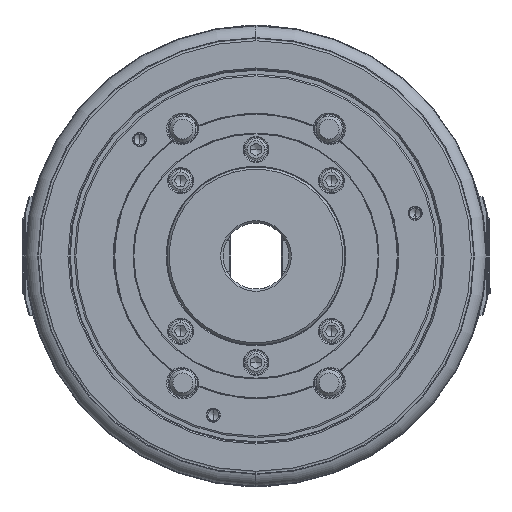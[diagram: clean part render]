
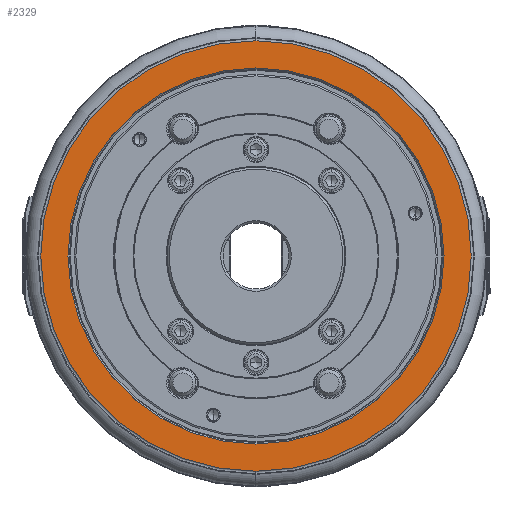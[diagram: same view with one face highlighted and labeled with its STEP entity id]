
A CAD part, left-side view. The second image highlights one B-rep face of the part: STEP entity #2329.
In plain terms, the highlighted planar face has unit normal (-1, 0, 0) as drawn and (0, 0, -1) by its records, which use the part's own axes.
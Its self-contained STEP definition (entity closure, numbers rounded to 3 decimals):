
#2329 = ADVANCED_FACE ( 'NONE', ( #47455, #21137 ), #40255, .T. ) ;
#2384 = AXIS2_PLACEMENT_3D ( 'NONE', #39845, #41071, #53424 ) ;
#2480 = CARTESIAN_POINT ( 'NONE',  ( 98., 0., -91. ) ) ;
#2886 = CARTESIAN_POINT ( 'NONE',  ( 0., 0., -91. ) ) ;
#5291 = CIRCLE ( 'NONE', #45987, 98. ) ;
#5657 = AXIS2_PLACEMENT_3D ( 'NONE', #72125, #40269, #13939 ) ;
#6041 = VERTEX_POINT ( 'NONE', #21465 ) ;
#6609 = DIRECTION ( 'NONE',  ( 1., 0., 0. ) ) ;
#8342 = CIRCLE ( 'NONE', #5657, 85.6 ) ;
#8373 = ORIENTED_EDGE ( 'NONE', *, *, #53928, .F. ) ;
#13337 = VERTEX_POINT ( 'NONE', #17005 ) ;
#13939 = DIRECTION ( 'NONE',  ( 1., 0., 0. ) ) ;
#15424 = EDGE_LOOP ( 'NONE', ( #65281, #8373 ) ) ;
#17005 = CARTESIAN_POINT ( 'NONE',  ( -85.6, 0., -91. ) ) ;
#21137 = FACE_BOUND ( 'NONE', #68425, .T. ) ;
#21465 = CARTESIAN_POINT ( 'NONE',  ( 85.6, 0., -91. ) ) ;
#22280 = AXIS2_PLACEMENT_3D ( 'NONE', #26996, #65641, #6609 ) ;
#26996 = CARTESIAN_POINT ( 'NONE',  ( 0., 0., -91. ) ) ;
#36156 = DIRECTION ( 'NONE',  ( 1., 0., 0. ) ) ;
#36989 = DIRECTION ( 'NONE',  ( 0., 0., 1. ) ) ;
#39845 = CARTESIAN_POINT ( 'NONE',  ( 85.6, 0., -91. ) ) ;
#40255 = PLANE ( 'NONE',  #2384 ) ;
#40269 = DIRECTION ( 'NONE',  ( 0., 0., 1. ) ) ;
#41071 = DIRECTION ( 'NONE',  ( 0., 0., -1. ) ) ;
#45987 = AXIS2_PLACEMENT_3D ( 'NONE', #2886, #54305, #60667 ) ;
#47455 = FACE_OUTER_BOUND ( 'NONE', #15424, .T. ) ;
#48052 = CIRCLE ( 'NONE', #22280, 98. ) ;
#48939 = EDGE_CURVE ( 'NONE', #6041, #13337, #8342, .T. ) ;
#51245 = VERTEX_POINT ( 'NONE', #2480 ) ;
#53264 = CARTESIAN_POINT ( 'NONE',  ( -98., 0., -91. ) ) ;
#53285 = EDGE_CURVE ( 'NONE', #13337, #6041, #73753, .T. ) ;
#53390 = AXIS2_PLACEMENT_3D ( 'NONE', #62879, #36989, #36156 ) ;
#53424 = DIRECTION ( 'NONE',  ( -1., 0., 0. ) ) ;
#53928 = EDGE_CURVE ( 'NONE', #80662, #51245, #48052, .T. ) ;
#54305 = DIRECTION ( 'NONE',  ( 0., 0., 1. ) ) ;
#58859 = ORIENTED_EDGE ( 'NONE', *, *, #48939, .T. ) ;
#60667 = DIRECTION ( 'NONE',  ( 1., 0., 0. ) ) ;
#62879 = CARTESIAN_POINT ( 'NONE',  ( 0., 0., -91. ) ) ;
#65281 = ORIENTED_EDGE ( 'NONE', *, *, #76674, .F. ) ;
#65641 = DIRECTION ( 'NONE',  ( 0., 0., 1. ) ) ;
#68425 = EDGE_LOOP ( 'NONE', ( #83831, #58859 ) ) ;
#72125 = CARTESIAN_POINT ( 'NONE',  ( 0., 0., -91. ) ) ;
#73753 = CIRCLE ( 'NONE', #53390, 85.6 ) ;
#76674 = EDGE_CURVE ( 'NONE', #51245, #80662, #5291, .T. ) ;
#80662 = VERTEX_POINT ( 'NONE', #53264 ) ;
#83831 = ORIENTED_EDGE ( 'NONE', *, *, #53285, .T. ) ;
